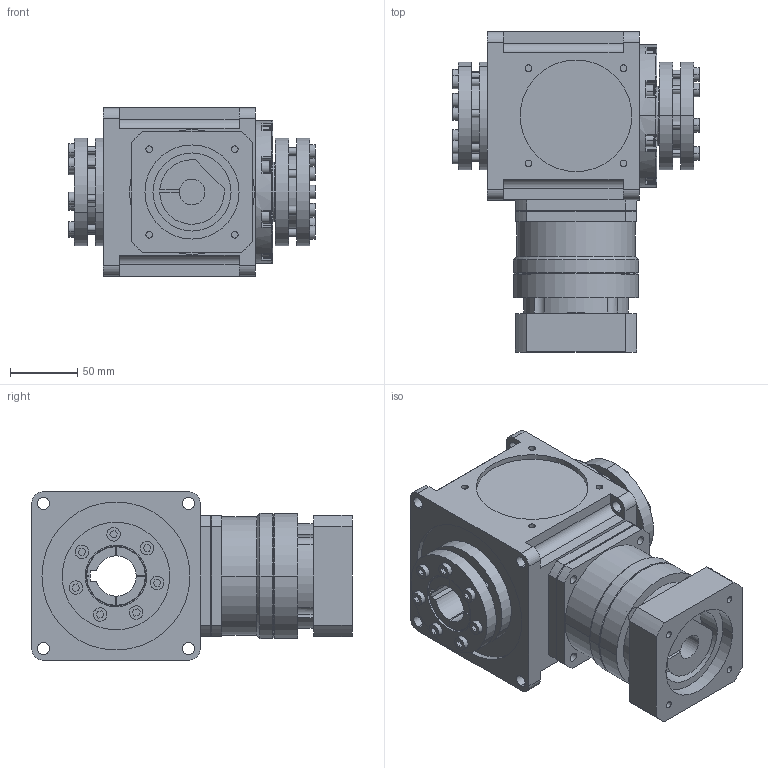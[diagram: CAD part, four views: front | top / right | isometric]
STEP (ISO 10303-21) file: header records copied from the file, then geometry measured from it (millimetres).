
FILE_DESCRIPTION (( 'STEP AP214' ), '1' );
FILE_NAME ('CCW125A-L2(6~20)-2HP-K 19-70-90-M6.STEP', '2025-05-19T07:32:34', ( '微软用户' ), ( '微软中国' ), 'SwSTEP 2.0', 'SolidWorks 2024', '' );
FILE_SCHEMA (( 'AUTOMOTIVE_DESIGN' ));
Length unit declared in the file: millimetre
Products named in the file (4): CCW125A-L2(6~20)-2HP-K 19-70-90-M6; LMY125A-002-2HP-K箱体; 外紧固型胀紧套[44-80]_EDO-44-80; VRB-090-L1-S2-P1 19-70-90-M6
Assembly tree (4 placements, depth 2):
  CCW125A-L2(6~20)-2HP-K 19-70-90-M6
    LMY125A-002-2HP-K箱体
    外紧固型胀紧套[44-80]_EDO-44-80  x2
    VRB-090-L1-S2-P1 19-70-90-M6
Bounding box: 183 x 238 x 125 mm (x, y, z)
Volume: 2550076.1 mm3; surface area: 253309.9 mm2
Topology: 4 solids, 4 shells, 779 faces, 1877 edges, 1189 vertices
Faces by surface type: plane 349, cylinder 314, torus 57, cone 43, sphere 16
Entity records: 19507 total; most frequent: DIRECTION 3552, CARTESIAN_POINT 3514, ORIENTED_EDGE 3142, EDGE_CURVE 1571, AXIS2_PLACEMENT_3D 1369, VERTEX_POINT 997, VECTOR 814, LINE 814
